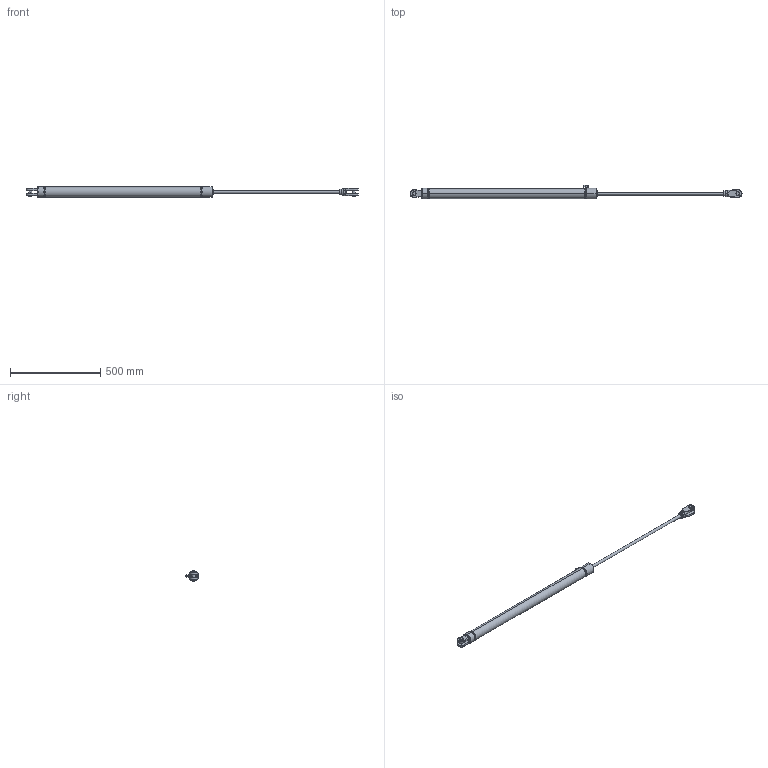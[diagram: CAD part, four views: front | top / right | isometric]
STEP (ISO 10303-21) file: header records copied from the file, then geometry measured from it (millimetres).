
FILE_DESCRIPTION (( 'STEP AP203' ), '1' );
FILE_NAME ('CL_045_S_0700.STEP', '2017-12-20T13:28:24', ( 'Pierluca' ), ( '' ), 'SwSTEP 2.0', 'SolidWorks 2015', '' );
FILE_SCHEMA (( 'CONFIG_CONTROL_DESIGN' ));
Length unit declared in the file: millimetre
Products named in the file (1): CL_045_S_0700
Bounding box: 1839 x 75.56 x 58 mm (x, y, z)
Volume: 2701058.3 mm3; surface area: 246210.4 mm2
Topology: 1 solids, 1 shells, 264 faces, 645 edges, 401 vertices
Faces by surface type: plane 99, cylinder 94, cone 37, torus 34
Entity records: 8726 total; most frequent: CARTESIAN_POINT 2441, DIRECTION 1344, ORIENTED_EDGE 1290, EDGE_CURVE 645, AXIS2_PLACEMENT_3D 543, VERTEX_POINT 401, EDGE_LOOP 288, CIRCLE 278
